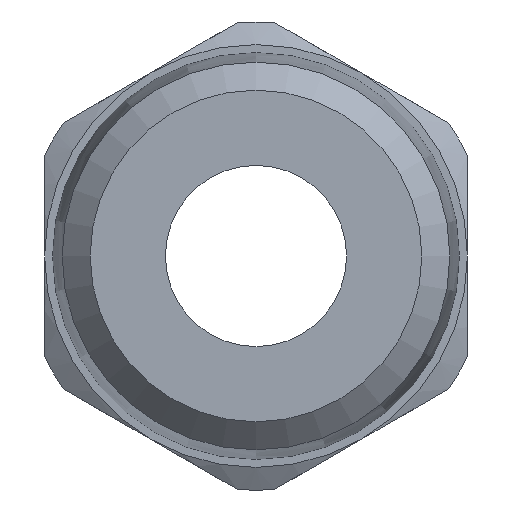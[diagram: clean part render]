
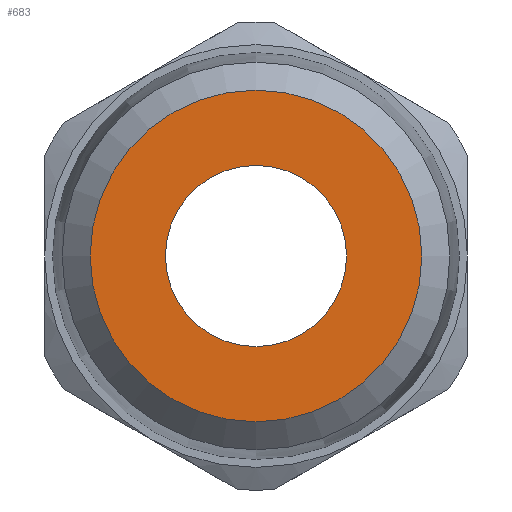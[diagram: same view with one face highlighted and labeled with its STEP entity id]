
A CAD part, left-side view. The second image highlights one B-rep face of the part: STEP entity #683.
In plain terms, the highlighted planar face has unit normal (-1, 0, 0).
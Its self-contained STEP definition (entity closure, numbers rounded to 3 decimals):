
#114=PLANE($,#739);
#132=FACE_BOUND($,#198,.T.);
#133=FACE_BOUND($,#199,.T.);
#198=EDGE_LOOP($,(#473));
#199=EDGE_LOOP($,(#474));
#250=CIRCLE($,#728,3.);
#254=CIRCLE($,#735,5.491);
#295=VERTEX_POINT($,#1034);
#299=VERTEX_POINT($,#1045);
#364=EDGE_CURVE($,#295,#295,#250,.T.);
#368=EDGE_CURVE($,#299,#299,#254,.T.);
#473=ORIENTED_EDGE($,*,*,#364,.T.);
#474=ORIENTED_EDGE($,*,*,#368,.F.);
#683=ADVANCED_FACE($,(#132,#133),#114,.F.);
#728=AXIS2_PLACEMENT_3D($,#1035,#822,#823);
#735=AXIS2_PLACEMENT_3D($,#1046,#836,#837);
#739=AXIS2_PLACEMENT_3D($,#1052,#844,#845);
#822=DIRECTION('center_axis',(1.,0.,0.));
#823=DIRECTION('ref_axis',(0.,-1.,0.));
#836=DIRECTION('center_axis',(1.,0.,0.));
#837=DIRECTION('ref_axis',(0.,0.,-1.));
#844=DIRECTION('center_axis',(1.,0.,0.));
#845=DIRECTION('ref_axis',(0.,0.,-1.));
#1034=CARTESIAN_POINT('',(-19.,-3.,0.));
#1035=CARTESIAN_POINT('Origin',(-19.,0.,0.));
#1045=CARTESIAN_POINT('',(-19.,0.,5.491));
#1046=CARTESIAN_POINT('Origin',(-19.,0.,0.));
#1052=CARTESIAN_POINT('Origin',(-19.,0.,0.));
